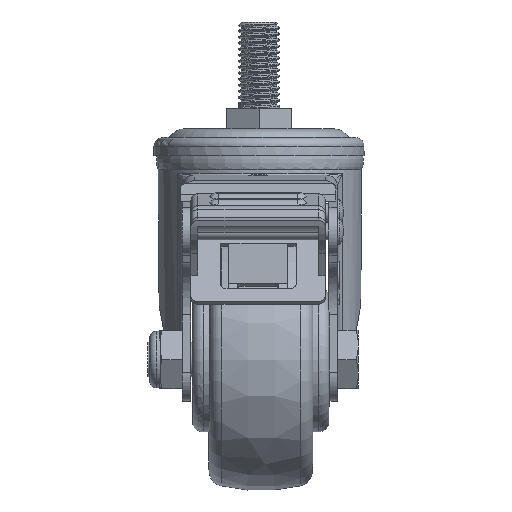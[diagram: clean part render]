
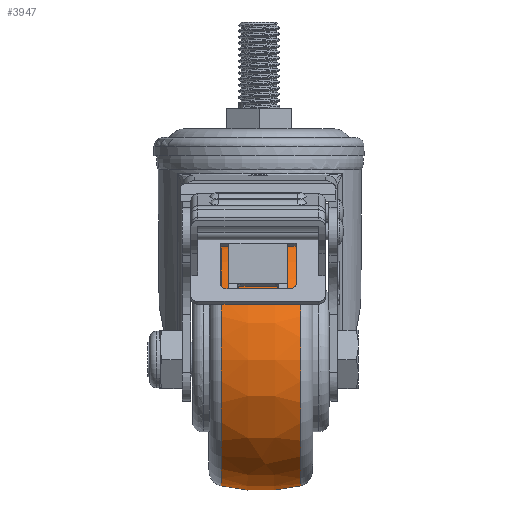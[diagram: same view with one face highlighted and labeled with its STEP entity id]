
A CAD part, left-side view. The second image highlights one B-rep face of the part: STEP entity #3947.
In plain terms, the highlighted free-form (B-spline) face has degree [3, 3] with [4, 7] control points.
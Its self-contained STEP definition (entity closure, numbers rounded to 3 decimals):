
#1236=FACE_BOUND('',#5811,.T.);
#1237=FACE_BOUND('',#5812,.T.);
#3947=ADVANCED_FACE('',(#1236,#1237),#4330,.T.);
#4330=(
BOUNDED_SURFACE()
B_SPLINE_SURFACE(3,3,((#31200,#31201,#31202,#31203,#31204,#31205,#31206),
(#31207,#31208,#31209,#31210,#31211,#31212,#31213),(#31214,#31215,#31216,
#31217,#31218,#31219,#31220),(#31221,#31222,#31223,#31224,#31225,#31226,
#31227)),.UNSPECIFIED.,.F.,.T.,.F.)
B_SPLINE_SURFACE_WITH_KNOTS((4,4),(1,3,3,3,1),(0.,1.),(-0.5,0.,0.5,1.,1.5),
 .UNSPECIFIED.)
GEOMETRIC_REPRESENTATION_ITEM()
RATIONAL_B_SPLINE_SURFACE(((1.,0.333,0.333,1.,0.333,
0.333,1.),(0.982,0.327,0.327,
0.982,0.327,0.327,0.982),(0.982,
0.327,0.327,0.982,0.327,0.327,
0.982),(1.,0.333,0.333,1.,0.333,
0.333,1.)))
REPRESENTATION_ITEM('')
SURFACE()
);
#5811=EDGE_LOOP('',(#10463));
#5812=EDGE_LOOP('',(#10464));
#6809=CIRCLE('',#18491,36.653);
#6810=CIRCLE('',#18492,36.653);
#10463=ORIENTED_EDGE('',*,*,#15724,.F.);
#10464=ORIENTED_EDGE('',*,*,#15725,.T.);
#13420=VERTEX_POINT('',#31197);
#13421=VERTEX_POINT('',#31199);
#15724=EDGE_CURVE('',#13420,#13420,#6809,.T.);
#15725=EDGE_CURVE('',#13421,#13421,#6810,.T.);
#18491=AXIS2_PLACEMENT_3D('',#31196,#22070,#22071);
#18492=AXIS2_PLACEMENT_3D('',#31198,#22072,#22073);
#22070=DIRECTION('',(0.003,-1.,0.));
#22071=DIRECTION('',(-1.,-0.003,0.));
#22072=DIRECTION('',(0.003,-1.,0.));
#22073=DIRECTION('',(-1.,-0.003,0.));
#31196=CARTESIAN_POINT('',(-33.911,-12.037,-97.902));
#31197=CARTESIAN_POINT('',(-70.563,-12.16,-97.902));
#31198=CARTESIAN_POINT('',(-33.988,11.037,-97.902));
#31199=CARTESIAN_POINT('',(-70.641,10.914,-97.902));
#31200=CARTESIAN_POINT('',(-70.563,-12.16,-97.902));
#31201=CARTESIAN_POINT('',(-70.563,-12.16,-171.207));
#31202=CARTESIAN_POINT('',(2.741,-11.914,-171.207));
#31203=CARTESIAN_POINT('',(2.741,-11.914,-97.902));
#31204=CARTESIAN_POINT('',(2.741,-11.914,-24.597));
#31205=CARTESIAN_POINT('',(-70.563,-12.16,-24.597));
#31206=CARTESIAN_POINT('',(-70.563,-12.16,-97.902));
#31207=CARTESIAN_POINT('',(-72.394,-4.545,-97.902));
#31208=CARTESIAN_POINT('',(-72.394,-4.545,-174.816));
#31209=CARTESIAN_POINT('',(4.521,-4.287,-174.816));
#31210=CARTESIAN_POINT('',(4.521,-4.287,-97.902));
#31211=CARTESIAN_POINT('',(4.521,-4.287,-20.987));
#31212=CARTESIAN_POINT('',(-72.394,-4.545,-20.987));
#31213=CARTESIAN_POINT('',(-72.394,-4.545,-97.902));
#31214=CARTESIAN_POINT('',(-72.42,3.286,-97.902));
#31215=CARTESIAN_POINT('',(-72.42,3.286,-174.816));
#31216=CARTESIAN_POINT('',(4.494,3.545,-174.816));
#31217=CARTESIAN_POINT('',(4.494,3.545,-97.902));
#31218=CARTESIAN_POINT('',(4.494,3.545,-20.987));
#31219=CARTESIAN_POINT('',(-72.42,3.286,-20.987));
#31220=CARTESIAN_POINT('',(-72.42,3.286,-97.902));
#31221=CARTESIAN_POINT('',(-70.641,10.914,-97.902));
#31222=CARTESIAN_POINT('',(-70.641,10.914,-171.207));
#31223=CARTESIAN_POINT('',(2.664,11.16,-171.207));
#31224=CARTESIAN_POINT('',(2.664,11.16,-97.902));
#31225=CARTESIAN_POINT('',(2.664,11.16,-24.597));
#31226=CARTESIAN_POINT('',(-70.641,10.914,-24.597));
#31227=CARTESIAN_POINT('',(-70.641,10.914,-97.902));
